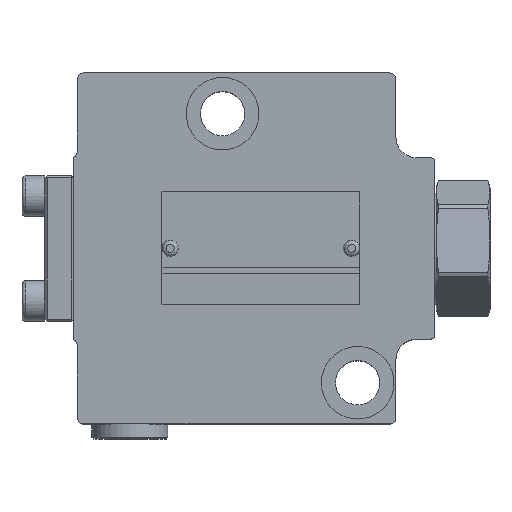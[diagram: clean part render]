
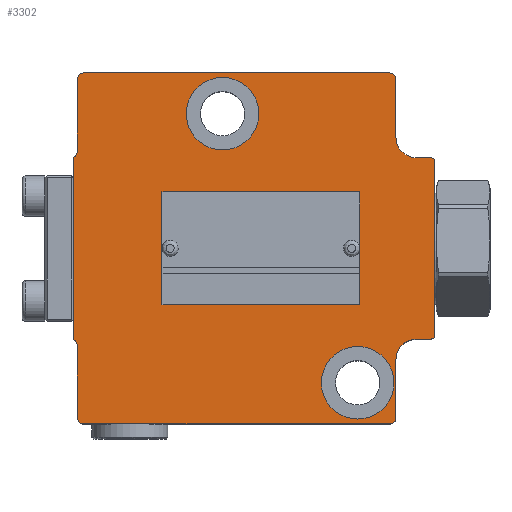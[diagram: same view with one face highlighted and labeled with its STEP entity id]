
A CAD part, top view. The second image highlights one B-rep face of the part: STEP entity #3302.
In plain terms, the highlighted planar face has unit normal (0, 0, 1).
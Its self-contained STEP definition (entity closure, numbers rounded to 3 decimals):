
#747=LINE('',#17676,#1241);
#748=LINE('',#17681,#1242);
#749=LINE('',#17685,#1243);
#750=LINE('',#17689,#1244);
#751=LINE('',#17693,#1245);
#752=LINE('',#17697,#1246);
#753=LINE('',#17701,#1247);
#754=LINE('',#17705,#1248);
#755=LINE('',#17709,#1249);
#756=LINE('',#17713,#1250);
#1241=VECTOR('',#10323,1.);
#1242=VECTOR('',#10326,1.);
#1243=VECTOR('',#10329,1.);
#1244=VECTOR('',#10332,1.);
#1245=VECTOR('',#10335,1.);
#1246=VECTOR('',#10338,1.);
#1247=VECTOR('',#10341,1.);
#1248=VECTOR('',#10344,1.);
#1249=VECTOR('',#10347,1.);
#1250=VECTOR('',#10350,1.);
#2901=PLANE('',#9365);
#3302=ADVANCED_FACE('',(#3814,#3815,#3816,#3817,#3818),#2901,.F.);
#3814=FACE_BOUND('',#4178,.T.);
#3815=FACE_BOUND('',#4179,.T.);
#3816=FACE_BOUND('',#4180,.T.);
#3817=FACE_BOUND('',#4181,.T.);
#3818=FACE_BOUND('',#4182,.T.);
#4178=EDGE_LOOP('',(#5081));
#4179=EDGE_LOOP('',(#5082));
#4180=EDGE_LOOP('',(#5083));
#4181=EDGE_LOOP('',(#5084));
#4182=EDGE_LOOP('',(#5085,#5086,#5087,#5088,#5089,#5090,#5091,#5092,#5093,
#5094,#5095,#5096,#5097,#5098,#5099,#5100,#5101,#5102,#5103,#5104));
#5081=ORIENTED_EDGE('',*,*,#8030,.T.);
#5082=ORIENTED_EDGE('',*,*,#8031,.T.);
#5083=ORIENTED_EDGE('',*,*,#8032,.T.);
#5084=ORIENTED_EDGE('',*,*,#8033,.T.);
#5085=ORIENTED_EDGE('',*,*,#8034,.F.);
#5086=ORIENTED_EDGE('',*,*,#8035,.F.);
#5087=ORIENTED_EDGE('',*,*,#8036,.F.);
#5088=ORIENTED_EDGE('',*,*,#8037,.F.);
#5089=ORIENTED_EDGE('',*,*,#8038,.F.);
#5090=ORIENTED_EDGE('',*,*,#8039,.F.);
#5091=ORIENTED_EDGE('',*,*,#8040,.F.);
#5092=ORIENTED_EDGE('',*,*,#8041,.F.);
#5093=ORIENTED_EDGE('',*,*,#8042,.F.);
#5094=ORIENTED_EDGE('',*,*,#8043,.F.);
#5095=ORIENTED_EDGE('',*,*,#8044,.T.);
#5096=ORIENTED_EDGE('',*,*,#8045,.F.);
#5097=ORIENTED_EDGE('',*,*,#8046,.F.);
#5098=ORIENTED_EDGE('',*,*,#8047,.F.);
#5099=ORIENTED_EDGE('',*,*,#8048,.F.);
#5100=ORIENTED_EDGE('',*,*,#8049,.F.);
#5101=ORIENTED_EDGE('',*,*,#8050,.F.);
#5102=ORIENTED_EDGE('',*,*,#8051,.F.);
#5103=ORIENTED_EDGE('',*,*,#8052,.F.);
#5104=ORIENTED_EDGE('',*,*,#8053,.F.);
#7206=VERTEX_POINT('',#17669);
#7207=VERTEX_POINT('',#17671);
#7208=VERTEX_POINT('',#17673);
#7209=VERTEX_POINT('',#17675);
#7210=VERTEX_POINT('',#17677);
#7211=VERTEX_POINT('',#17678);
#7212=VERTEX_POINT('',#17680);
#7213=VERTEX_POINT('',#17682);
#7214=VERTEX_POINT('',#17684);
#7215=VERTEX_POINT('',#17686);
#7216=VERTEX_POINT('',#17688);
#7217=VERTEX_POINT('',#17690);
#7218=VERTEX_POINT('',#17692);
#7219=VERTEX_POINT('',#17694);
#7220=VERTEX_POINT('',#17696);
#7221=VERTEX_POINT('',#17698);
#7222=VERTEX_POINT('',#17700);
#7223=VERTEX_POINT('',#17702);
#7224=VERTEX_POINT('',#17704);
#7225=VERTEX_POINT('',#17706);
#7226=VERTEX_POINT('',#17708);
#7227=VERTEX_POINT('',#17710);
#7228=VERTEX_POINT('',#17712);
#7229=VERTEX_POINT('',#17714);
#8030=EDGE_CURVE('',#7206,#7206,#8996,.T.);
#8031=EDGE_CURVE('',#7207,#7207,#8997,.T.);
#8032=EDGE_CURVE('',#7208,#7208,#8998,.T.);
#8033=EDGE_CURVE('',#7209,#7209,#8999,.T.);
#8034=EDGE_CURVE('',#7210,#7211,#747,.T.);
#8035=EDGE_CURVE('',#7212,#7210,#9000,.T.);
#8036=EDGE_CURVE('',#7213,#7212,#748,.T.);
#8037=EDGE_CURVE('',#7214,#7213,#9001,.T.);
#8038=EDGE_CURVE('',#7215,#7214,#749,.T.);
#8039=EDGE_CURVE('',#7216,#7215,#9002,.T.);
#8040=EDGE_CURVE('',#7217,#7216,#750,.T.);
#8041=EDGE_CURVE('',#7218,#7217,#9003,.T.);
#8042=EDGE_CURVE('',#7219,#7218,#751,.T.);
#8043=EDGE_CURVE('',#7220,#7219,#9004,.T.);
#8044=EDGE_CURVE('',#7220,#7221,#752,.T.);
#8045=EDGE_CURVE('',#7222,#7221,#9005,.T.);
#8046=EDGE_CURVE('',#7223,#7222,#753,.T.);
#8047=EDGE_CURVE('',#7224,#7223,#9006,.T.);
#8048=EDGE_CURVE('',#7225,#7224,#754,.T.);
#8049=EDGE_CURVE('',#7226,#7225,#9007,.T.);
#8050=EDGE_CURVE('',#7227,#7226,#755,.T.);
#8051=EDGE_CURVE('',#7228,#7227,#9008,.T.);
#8052=EDGE_CURVE('',#7229,#7228,#756,.T.);
#8053=EDGE_CURVE('',#7211,#7229,#9009,.T.);
#8996=CIRCLE('',#9351,0.935);
#8997=CIRCLE('',#9352,0.935);
#8998=CIRCLE('',#9353,9.);
#8999=CIRCLE('',#9354,9.);
#9000=CIRCLE('',#9355,1.6);
#9001=CIRCLE('',#9356,5.);
#9002=CIRCLE('',#9357,1.6);
#9003=CIRCLE('',#9358,1.6);
#9004=CIRCLE('',#9359,1.6);
#9005=CIRCLE('',#9360,1.6);
#9006=CIRCLE('',#9361,1.6);
#9007=CIRCLE('',#9362,1.6);
#9008=CIRCLE('',#9363,5.);
#9009=CIRCLE('',#9364,1.6);
#9351=AXIS2_PLACEMENT_3D('',#17668,#10315,#10316);
#9352=AXIS2_PLACEMENT_3D('',#17670,#10317,#10318);
#9353=AXIS2_PLACEMENT_3D('',#17672,#10319,#10320);
#9354=AXIS2_PLACEMENT_3D('',#17674,#10321,#10322);
#9355=AXIS2_PLACEMENT_3D('',#17679,#10324,#10325);
#9356=AXIS2_PLACEMENT_3D('',#17683,#10327,#10328);
#9357=AXIS2_PLACEMENT_3D('',#17687,#10330,#10331);
#9358=AXIS2_PLACEMENT_3D('',#17691,#10333,#10334);
#9359=AXIS2_PLACEMENT_3D('',#17695,#10336,#10337);
#9360=AXIS2_PLACEMENT_3D('',#17699,#10339,#10340);
#9361=AXIS2_PLACEMENT_3D('',#17703,#10342,#10343);
#9362=AXIS2_PLACEMENT_3D('',#17707,#10345,#10346);
#9363=AXIS2_PLACEMENT_3D('',#17711,#10348,#10349);
#9364=AXIS2_PLACEMENT_3D('',#17715,#10351,#10352);
#9365=AXIS2_PLACEMENT_3D('',#17716,#10353,#10354);
#10315=DIRECTION('',(0.,0.,-1.));
#10316=DIRECTION('',(-1.,0.,0.));
#10317=DIRECTION('',(0.,0.,-1.));
#10318=DIRECTION('',(-1.,0.,0.));
#10319=DIRECTION('',(0.,0.,-1.));
#10320=DIRECTION('',(-1.,0.,0.));
#10321=DIRECTION('',(0.,0.,-1.));
#10322=DIRECTION('',(-1.,0.,0.));
#10323=DIRECTION('',(0.,-1.,0.));
#10324=DIRECTION('',(0.,0.,-1.));
#10325=DIRECTION('',(1.,0.,0.));
#10326=DIRECTION('',(1.,0.,0.));
#10327=DIRECTION('',(0.,0.,1.));
#10328=DIRECTION('',(1.,0.,0.));
#10329=DIRECTION('',(0.,-1.,0.));
#10330=DIRECTION('',(0.,0.,-1.));
#10331=DIRECTION('',(1.,0.,0.));
#10332=DIRECTION('',(1.,0.,0.));
#10333=DIRECTION('',(0.,0.,-1.));
#10334=DIRECTION('',(1.,0.,0.));
#10335=DIRECTION('',(0.,1.,0.));
#10336=DIRECTION('',(0.,0.,1.));
#10337=DIRECTION('',(1.,0.,0.));
#10338=DIRECTION('',(0.,-1.,0.));
#10339=DIRECTION('',(0.,0.,1.));
#10340=DIRECTION('',(1.,0.,0.));
#10341=DIRECTION('',(0.,1.,0.));
#10342=DIRECTION('',(0.,0.,-1.));
#10343=DIRECTION('',(1.,0.,0.));
#10344=DIRECTION('',(-1.,0.,0.));
#10345=DIRECTION('',(0.,0.,-1.));
#10346=DIRECTION('',(1.,0.,0.));
#10347=DIRECTION('',(0.,-1.,0.));
#10348=DIRECTION('',(0.,0.,1.));
#10349=DIRECTION('',(1.,0.,0.));
#10350=DIRECTION('',(-1.,0.,0.));
#10351=DIRECTION('',(0.,0.,-1.));
#10352=DIRECTION('',(1.,0.,0.));
#10353=DIRECTION('',(0.,0.,-1.));
#10354=DIRECTION('',(1.,0.,0.));
#17668=CARTESIAN_POINT('',(273.361,119.156,0.));
#17669=CARTESIAN_POINT('',(272.426,119.156,0.));
#17670=CARTESIAN_POINT('',(228.361,119.156,0.));
#17671=CARTESIAN_POINT('',(227.426,119.156,0.));
#17672=CARTESIAN_POINT('',(241.363,152.556,0.));
#17673=CARTESIAN_POINT('',(232.363,152.556,0.));
#17674=CARTESIAN_POINT('',(274.863,85.856,0.));
#17675=CARTESIAN_POINT('',(265.863,85.856,0.));
#17676=CARTESIAN_POINT('',(293.858,146.156,0.));
#17677=CARTESIAN_POINT('',(293.858,141.22,0.));
#17678=CARTESIAN_POINT('',(293.858,97.094,0.));
#17679=CARTESIAN_POINT('',(292.761,140.056,0.));
#17680=CARTESIAN_POINT('',(292.761,141.656,0.));
#17681=CARTESIAN_POINT('',(289.361,141.656,0.));
#17682=CARTESIAN_POINT('',(289.361,141.656,0.));
#17683=CARTESIAN_POINT('',(289.361,146.656,0.));
#17684=CARTESIAN_POINT('',(284.361,146.656,0.));
#17685=CARTESIAN_POINT('',(284.361,161.056,0.));
#17686=CARTESIAN_POINT('',(284.361,161.056,0.));
#17687=CARTESIAN_POINT('',(282.761,161.056,0.));
#17688=CARTESIAN_POINT('',(282.761,162.656,0.));
#17689=CARTESIAN_POINT('',(256.861,162.656,0.));
#17690=CARTESIAN_POINT('',(206.961,162.656,0.));
#17691=CARTESIAN_POINT('',(206.961,161.056,0.));
#17692=CARTESIAN_POINT('',(205.361,161.056,0.));
#17693=CARTESIAN_POINT('',(205.361,143.256,0.));
#17694=CARTESIAN_POINT('',(205.361,143.256,0.));
#17695=CARTESIAN_POINT('',(203.761,143.256,0.));
#17696=CARTESIAN_POINT('',(204.361,141.773,0.));
#17697=CARTESIAN_POINT('',(204.361,161.056,0.));
#17698=CARTESIAN_POINT('',(204.361,96.539,0.));
#17699=CARTESIAN_POINT('',(203.761,95.056,0.));
#17700=CARTESIAN_POINT('',(205.361,95.056,0.));
#17701=CARTESIAN_POINT('',(205.361,77.256,0.));
#17702=CARTESIAN_POINT('',(205.361,77.256,0.));
#17703=CARTESIAN_POINT('',(206.961,77.256,0.));
#17704=CARTESIAN_POINT('',(206.961,75.656,0.));
#17705=CARTESIAN_POINT('',(282.761,75.656,0.));
#17706=CARTESIAN_POINT('',(282.761,75.656,0.));
#17707=CARTESIAN_POINT('',(282.761,77.256,0.));
#17708=CARTESIAN_POINT('',(284.361,77.256,0.));
#17709=CARTESIAN_POINT('',(284.361,91.656,0.));
#17710=CARTESIAN_POINT('',(284.361,91.656,0.));
#17711=CARTESIAN_POINT('',(289.361,91.656,0.));
#17712=CARTESIAN_POINT('',(289.361,96.656,0.));
#17713=CARTESIAN_POINT('',(292.758,96.656,0.));
#17714=CARTESIAN_POINT('',(292.758,96.656,0.));
#17715=CARTESIAN_POINT('',(292.758,98.256,0.));
#17716=CARTESIAN_POINT('',(282.761,161.056,0.));
